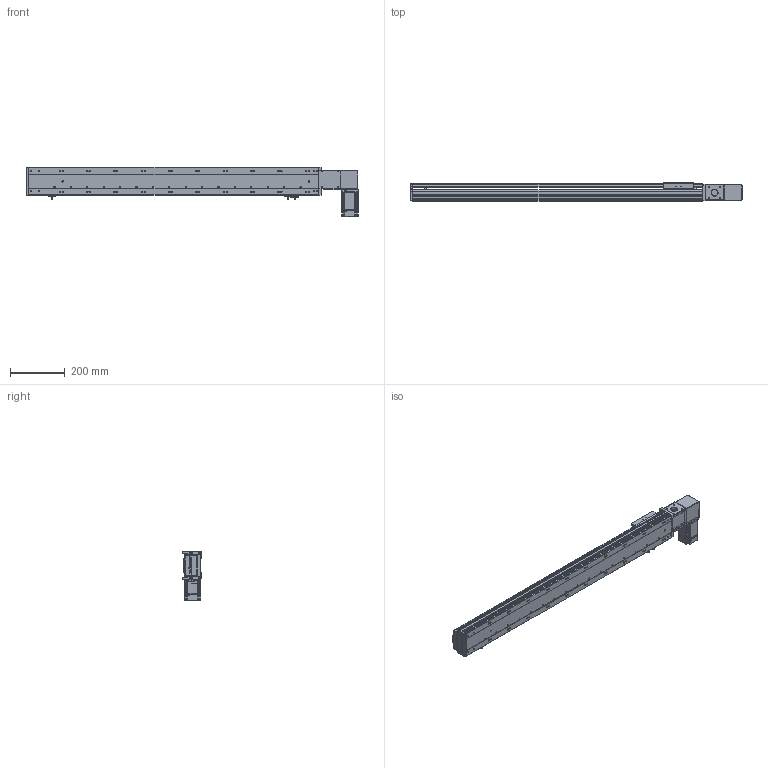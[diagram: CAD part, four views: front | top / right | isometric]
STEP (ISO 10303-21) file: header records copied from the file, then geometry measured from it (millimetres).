
FILE_DESCRIPTION (( 'STEP AP203' ), '1' );
FILE_NAME ('RY100-T-300-LK.SLDASM_850.step', '2024-04-25T05:37:19', ( '盈信电脑' ), ( '东莞市道滘镇水果街19号' ), 'SwSTEP 2.0', 'SolidWorks 2016', '' );
FILE_SCHEMA (( 'CONFIG_CONTROL_DESIGN' ));
Length unit declared in the file: millimetre
Products named in the file (13): RY100-T肮祭謫臏賑輸; RY100-T肮祭謫翋盓傅釱; 滅袉蝶18-10; RY100-T-300-LK.SLDASM_850; RY100-T左右折电机安装板; RY100-T翋肮祭謫裔啣2; RY100-T-300-RK倰第奻裔_850; RY100-T-300-RK倰第菁釱_850; RY100綴裔啣; RY80-T肮祭謫俋欶; 1; RY100俋离覜茼え; 覜茼ん672
Assembly tree (16 placements, depth 2):
  RY100-T-300-LK.SLDASM_850
    RY100-T-300-RK倰第菁釱_850
    RY100-T-300-RK倰第奻裔_850
    RY100-T肮祭謫臏賑輸
    RY100綴裔啣
    覜茼ん672  x3
    RY100俋离覜茼え
    RY100-T肮祭謫翋盓傅釱
    滅袉蝶18-10  x2
    RY100-T翋肮祭謫裔啣2  x2
    RY80-T肮祭謫俋欶
    RY100-T左右折电机安装板
    1
Bounding box: 1214 x 66 x 182.5 mm (x, y, z)
Volume: 2368858.6 mm3; surface area: 967608.5 mm2
Topology: 16 solids, 16 shells, 2210 faces, 6192 edges, 4026 vertices
Faces by surface type: plane 1186, cylinder 809, cone 137, bspline 78
Entity records: 71156 total; most frequent: CARTESIAN_POINT 17581, ORIENTED_EDGE 11120, DIRECTION 10500, EDGE_CURVE 5560, VERTEX_POINT 3662, VECTOR 3560, LINE 3560, AXIS2_PLACEMENT_3D 3470
